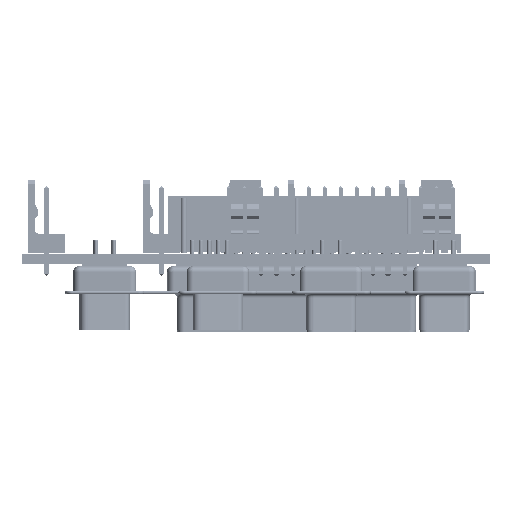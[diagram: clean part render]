
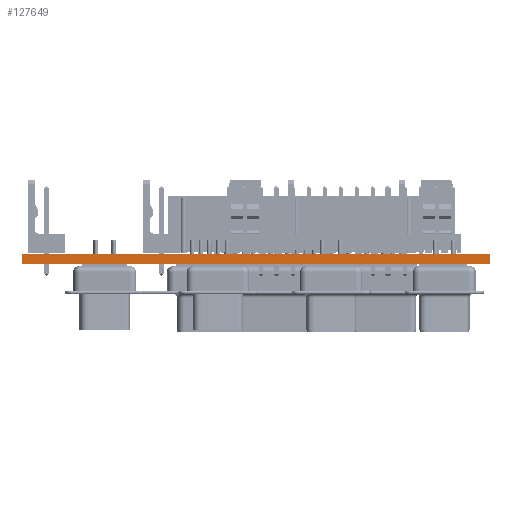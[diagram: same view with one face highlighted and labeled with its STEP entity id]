
A CAD part, left-side view. The second image highlights one B-rep face of the part: STEP entity #127649.
In plain terms, the highlighted planar face has unit normal (-1, 0, 0).
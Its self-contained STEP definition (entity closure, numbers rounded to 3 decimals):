
#110159 = PLANE('',#110160);
#110160 = AXIS2_PLACEMENT_3D('',#110161,#110162,#110163);
#110161 = CARTESIAN_POINT('',(83.01,-60.868,1.6));
#110162 = DIRECTION('',(-0.,-0.,-1.));
#110163 = DIRECTION('',(-1.,0.,0.));
#110187 = PLANE('',#110188);
#110188 = AXIS2_PLACEMENT_3D('',#110189,#110190,#110191);
#110189 = CARTESIAN_POINT('',(136.931,-96.241,0.));
#110190 = DIRECTION('',(0.,-1.,0.));
#110191 = DIRECTION('',(-1.,0.,0.));
#110213 = PLANE('',#110214);
#110214 = AXIS2_PLACEMENT_3D('',#110215,#110216,#110217);
#110215 = CARTESIAN_POINT('',(83.01,-60.868,0.));
#110216 = DIRECTION('',(-0.,-0.,-1.));
#110217 = DIRECTION('',(-1.,0.,0.));
#110306 = VERTEX_POINT('',#110307);
#110307 = CARTESIAN_POINT('',(32.664,-96.241,1.6));
#110328 = EDGE_CURVE('',#110329,#110306,#110331,.T.);
#110329 = VERTEX_POINT('',#110330);
#110330 = CARTESIAN_POINT('',(32.664,-96.241,0.));
#110331 = SURFACE_CURVE('',#110332,(#110336,#110343),.PCURVE_S1.);
#110332 = LINE('',#110333,#110334);
#110333 = CARTESIAN_POINT('',(32.664,-96.241,0.));
#110334 = VECTOR('',#110335,1.);
#110335 = DIRECTION('',(0.,0.,1.));
#110336 = PCURVE('',#110187,#110337);
#110337 = DEFINITIONAL_REPRESENTATION('',(#110338),#110342);
#110338 = LINE('',#110339,#110340);
#110339 = CARTESIAN_POINT('',(104.267,0.));
#110340 = VECTOR('',#110341,1.);
#110341 = DIRECTION('',(0.,-1.));
#110342 = ( GEOMETRIC_REPRESENTATION_CONTEXT(2) 
PARAMETRIC_REPRESENTATION_CONTEXT() REPRESENTATION_CONTEXT('2D SPACE',''
  ) );
#110343 = PCURVE('',#110344,#110349);
#110344 = PLANE('',#110345);
#110345 = AXIS2_PLACEMENT_3D('',#110346,#110347,#110348);
#110346 = CARTESIAN_POINT('',(32.664,-96.241,0.));
#110347 = DIRECTION('',(-1.,0.,0.));
#110348 = DIRECTION('',(0.,1.,0.));
#110349 = DEFINITIONAL_REPRESENTATION('',(#110350),#110354);
#110350 = LINE('',#110351,#110352);
#110351 = CARTESIAN_POINT('',(0.,0.));
#110352 = VECTOR('',#110353,1.);
#110353 = DIRECTION('',(0.,-1.));
#110354 = ( GEOMETRIC_REPRESENTATION_CONTEXT(2) 
PARAMETRIC_REPRESENTATION_CONTEXT() REPRESENTATION_CONTEXT('2D SPACE',''
  ) );
#110382 = EDGE_CURVE('',#110329,#110383,#110385,.T.);
#110383 = VERTEX_POINT('',#110384);
#110384 = CARTESIAN_POINT('',(32.664,-21.92,0.));
#110385 = SURFACE_CURVE('',#110386,(#110390,#110397),.PCURVE_S1.);
#110386 = LINE('',#110387,#110388);
#110387 = CARTESIAN_POINT('',(32.664,-96.241,0.));
#110388 = VECTOR('',#110389,1.);
#110389 = DIRECTION('',(0.,1.,0.));
#110390 = PCURVE('',#110213,#110391);
#110391 = DEFINITIONAL_REPRESENTATION('',(#110392),#110396);
#110392 = LINE('',#110393,#110394);
#110393 = CARTESIAN_POINT('',(50.346,-35.373));
#110394 = VECTOR('',#110395,1.);
#110395 = DIRECTION('',(0.,1.));
#110396 = ( GEOMETRIC_REPRESENTATION_CONTEXT(2) 
PARAMETRIC_REPRESENTATION_CONTEXT() REPRESENTATION_CONTEXT('2D SPACE',''
  ) );
#110397 = PCURVE('',#110344,#110398);
#110398 = DEFINITIONAL_REPRESENTATION('',(#110399),#110403);
#110399 = LINE('',#110400,#110401);
#110400 = CARTESIAN_POINT('',(0.,0.));
#110401 = VECTOR('',#110402,1.);
#110402 = DIRECTION('',(1.,0.));
#110403 = ( GEOMETRIC_REPRESENTATION_CONTEXT(2) 
PARAMETRIC_REPRESENTATION_CONTEXT() REPRESENTATION_CONTEXT('2D SPACE',''
  ) );
#110421 = PLANE('',#110422);
#110422 = AXIS2_PLACEMENT_3D('',#110423,#110424,#110425);
#110423 = CARTESIAN_POINT('',(32.664,-21.92,0.));
#110424 = DIRECTION('',(0.,1.,0.));
#110425 = DIRECTION('',(1.,0.,0.));
#119665 = EDGE_CURVE('',#110306,#119666,#119668,.T.);
#119666 = VERTEX_POINT('',#119667);
#119667 = CARTESIAN_POINT('',(32.664,-21.92,1.6));
#119668 = SURFACE_CURVE('',#119669,(#119673,#119680),.PCURVE_S1.);
#119669 = LINE('',#119670,#119671);
#119670 = CARTESIAN_POINT('',(32.664,-96.241,1.6));
#119671 = VECTOR('',#119672,1.);
#119672 = DIRECTION('',(0.,1.,0.));
#119673 = PCURVE('',#110159,#119674);
#119674 = DEFINITIONAL_REPRESENTATION('',(#119675),#119679);
#119675 = LINE('',#119676,#119677);
#119676 = CARTESIAN_POINT('',(50.346,-35.373));
#119677 = VECTOR('',#119678,1.);
#119678 = DIRECTION('',(0.,1.));
#119679 = ( GEOMETRIC_REPRESENTATION_CONTEXT(2) 
PARAMETRIC_REPRESENTATION_CONTEXT() REPRESENTATION_CONTEXT('2D SPACE',''
  ) );
#119680 = PCURVE('',#110344,#119681);
#119681 = DEFINITIONAL_REPRESENTATION('',(#119682),#119686);
#119682 = LINE('',#119683,#119684);
#119683 = CARTESIAN_POINT('',(0.,-1.6));
#119684 = VECTOR('',#119685,1.);
#119685 = DIRECTION('',(1.,0.));
#119686 = ( GEOMETRIC_REPRESENTATION_CONTEXT(2) 
PARAMETRIC_REPRESENTATION_CONTEXT() REPRESENTATION_CONTEXT('2D SPACE',''
  ) );
#127649 = ADVANCED_FACE('',(#127650),#110344,.T.);
#127650 = FACE_BOUND('',#127651,.T.);
#127651 = EDGE_LOOP('',(#127652,#127653,#127654,#127675));
#127652 = ORIENTED_EDGE('',*,*,#110328,.T.);
#127653 = ORIENTED_EDGE('',*,*,#119665,.T.);
#127654 = ORIENTED_EDGE('',*,*,#127655,.F.);
#127655 = EDGE_CURVE('',#110383,#119666,#127656,.T.);
#127656 = SURFACE_CURVE('',#127657,(#127661,#127668),.PCURVE_S1.);
#127657 = LINE('',#127658,#127659);
#127658 = CARTESIAN_POINT('',(32.664,-21.92,0.));
#127659 = VECTOR('',#127660,1.);
#127660 = DIRECTION('',(0.,0.,1.));
#127661 = PCURVE('',#110344,#127662);
#127662 = DEFINITIONAL_REPRESENTATION('',(#127663),#127667);
#127663 = LINE('',#127664,#127665);
#127664 = CARTESIAN_POINT('',(74.32,0.));
#127665 = VECTOR('',#127666,1.);
#127666 = DIRECTION('',(0.,-1.));
#127667 = ( GEOMETRIC_REPRESENTATION_CONTEXT(2) 
PARAMETRIC_REPRESENTATION_CONTEXT() REPRESENTATION_CONTEXT('2D SPACE',''
  ) );
#127668 = PCURVE('',#110421,#127669);
#127669 = DEFINITIONAL_REPRESENTATION('',(#127670),#127674);
#127670 = LINE('',#127671,#127672);
#127671 = CARTESIAN_POINT('',(0.,0.));
#127672 = VECTOR('',#127673,1.);
#127673 = DIRECTION('',(0.,-1.));
#127674 = ( GEOMETRIC_REPRESENTATION_CONTEXT(2) 
PARAMETRIC_REPRESENTATION_CONTEXT() REPRESENTATION_CONTEXT('2D SPACE',''
  ) );
#127675 = ORIENTED_EDGE('',*,*,#110382,.F.);
